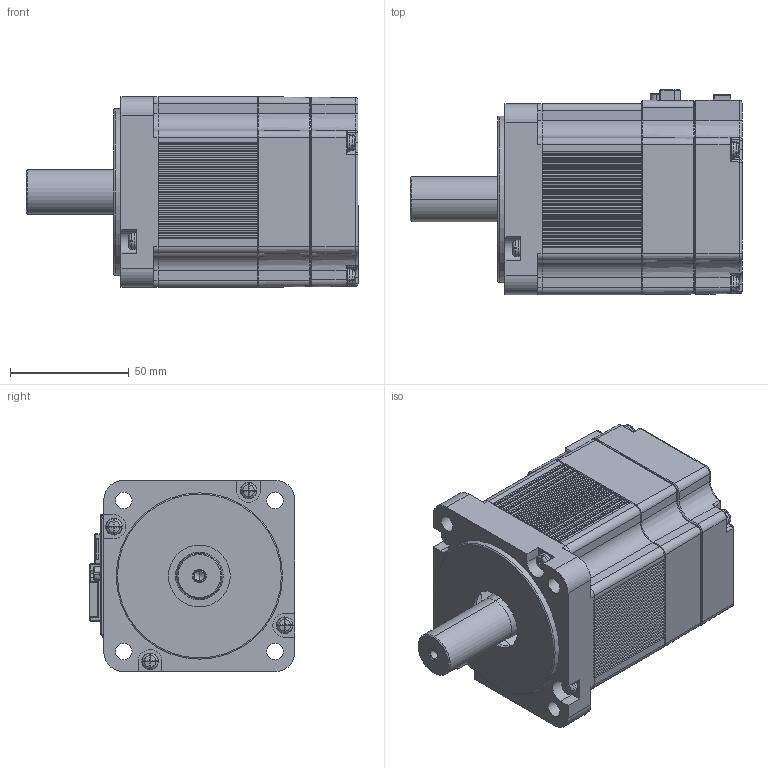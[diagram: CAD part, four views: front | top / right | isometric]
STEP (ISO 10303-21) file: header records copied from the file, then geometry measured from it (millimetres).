
FILE_DESCRIPTION (( 'STEP AP203' ), '1' );
FILE_NAME ('80-750W_NB(諼睡 歎睡辨).STEP', '2022-09-07T06:53:33', ( '' ), ( '' ), 'SwSTEP 2.0', 'SolidWorks 2020', '' );
FILE_SCHEMA (( 'CONFIG_CONTROL_DESIGN' ));
Length unit declared in the file: millimetre
Products named in the file (10): __80-750W NON-BRAKE SHAFT.STEP; 80-750W_NB(諼睡 歎睡辨); __80 ENCODER COVER___________ ______.STEP; m4x50_____.STEP; POWER RECEPTACLE.STEP; ENCODER Receptacle.STEP; __80 BRACKET(NON BRAKE)___________ ______.STEP; m4x30_____.STEP; __80-750W FRAME.STEP; 80-750W Ы楠雖
Assembly tree (15 placements, depth 2):
  80-750W_NB(諼睡 歎睡辨)
    __80-750W FRAME.STEP
    __80-750W NON-BRAKE SHAFT.STEP
    ENCODER Receptacle.STEP
    POWER RECEPTACLE.STEP
    m4x30_____.STEP  x4
    m4x50_____.STEP  x4
    __80 ENCODER COVER___________ ______.STEP
    __80 BRACKET(NON BRAKE)___________ ______.STEP
    80-750W Ы楠雖
Bounding box: 139.8 x 86.6 x 80.4 mm (x, y, z)
Volume: 207982.2 mm3; surface area: 109486.9 mm2
Topology: 15 solids, 21 shells, 2118 faces, 5468 edges, 3452 vertices
Faces by surface type: plane 1061, cylinder 607, bspline 192, cone 153, torus 61, sphere 44
Full cylindrical faces by diameter (mm): 4.5 x4, 7 x4, 26 x1, 47 x1, 51 x1, 69.998 x1, 75.798 x1
Entity records: 65305 total; most frequent: CARTESIAN_POINT 17432, ORIENTED_EDGE 9938, DIRECTION 9518, EDGE_CURVE 4969, AXIS2_PLACEMENT_3D 3232, VERTEX_POINT 3149, LINE 3054, VECTOR 3054
